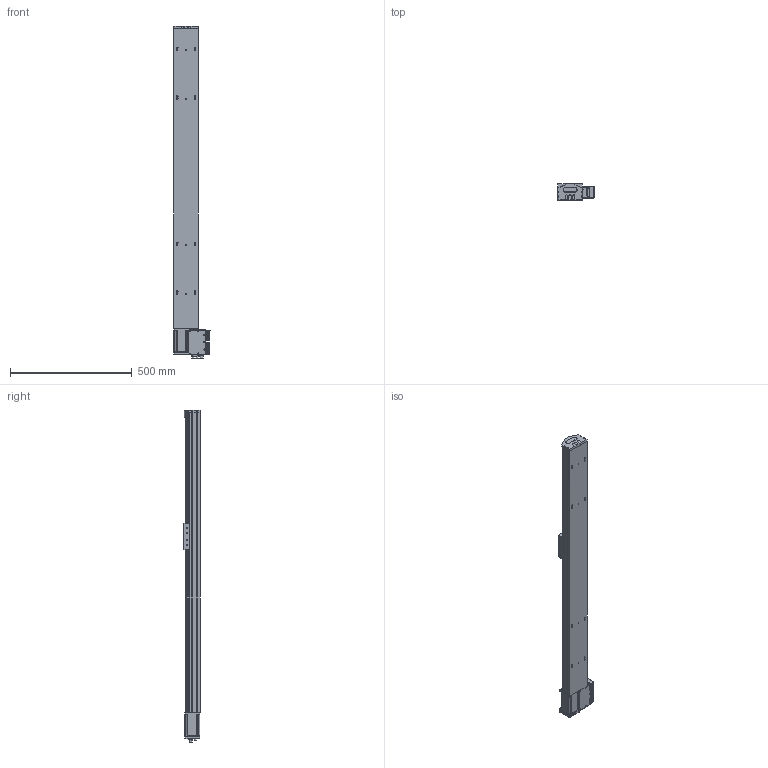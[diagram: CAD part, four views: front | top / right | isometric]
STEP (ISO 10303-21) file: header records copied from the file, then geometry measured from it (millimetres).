
FILE_DESCRIPTION (( 'STEP AP203' ), '1' );
FILE_NAME ('S 10 TSH MD S1000.STEP', '2012-08-29T15:04:26', ( 'Conseil Régional Haute-Normandie' ), ( 'Conseil Régional Haute-Normandie' ), 'SwSTEP 2.0', 'SolidWorks 2010', '' );
FILE_SCHEMA (( 'CONFIG_CONTROL_DESIGN' ));
Length unit declared in the file: millimetre
Products named in the file (23): embout_modifié; T_X2_00F4_X0_le lat_X2_00E9_X0_rale_5; S 10 TSH MD S1000; palette tbn2; axe1230_Default; piece_plastique remplieTSH_Default; remplir_Default; Pièce2_Default; Assem1_7; T_X2_00F4_X0_le contre le moteur_5; BU41 Carte Alimentation P05_3; Colonnette_3; Sub D 9cts 90_X2_00B_X0__3; BU45 Carte d''axe A11_5; Moteur 60BLDC90A_3; Couvercle_3; T_X2_00F4_X0_le fond_3; Connecteur rond D10 3cts_5; Connecteur rond D12 4cts_5; Radiateur profil_X2_00E9_X0_ 100x25_3; Colonnette ronde_3; T_X2_00F4_X0_le Arri_X2_00E8_X0_re_5; Vis TF 3 torkx_1_1
Assembly tree (47 placements, depth 3):
  S 10 TSH MD S1000
    palette tbn2
    axe1230_Default
    piece_plastique remplieTSH_Default
      Pièce2_Default
      remplir_Default  x3
      embout_modifié
    Assem1_7
      Colonnette_3  x2
      Vis TF 3 torkx_1_1  x21
      T_X2_00F4_X0_le lat_X2_00E9_X0_rale_5  x2
      Radiateur profil_X2_00E9_X0_ 100x25_3
      Connecteur rond D10 3cts_5  x2
      T_X2_00F4_X0_le Arri_X2_00E8_X0_re_5
      T_X2_00F4_X0_le fond_3
      BU45 Carte d''axe A11_5
      BU41 Carte Alimentation P05_3
      Colonnette ronde_3
      Connecteur rond D12 4cts_5
      T_X2_00F4_X0_le contre le moteur_5
      Couvercle_3
      Moteur 60BLDC90A_3
      Sub D 9cts 90_X2_00B_X0__3
Bounding box: 148.26 x 66.75 x 1361.6 mm (x, y, z)
Volume: 7052796.6 mm3; surface area: 814151.8 mm2
Topology: 45 solids, 45 shells, 1726 faces, 4403 edges, 2866 vertices
Faces by surface type: plane 799, cylinder 774, cone 150, torus 3
Entity records: 36182 total; most frequent: CARTESIAN_POINT 6123, DIRECTION 5908, ORIENTED_EDGE 5382, EDGE_CURVE 2691, AXIS2_PLACEMENT_3D 2164, VERTEX_POINT 1766, LINE 1580, VECTOR 1580
